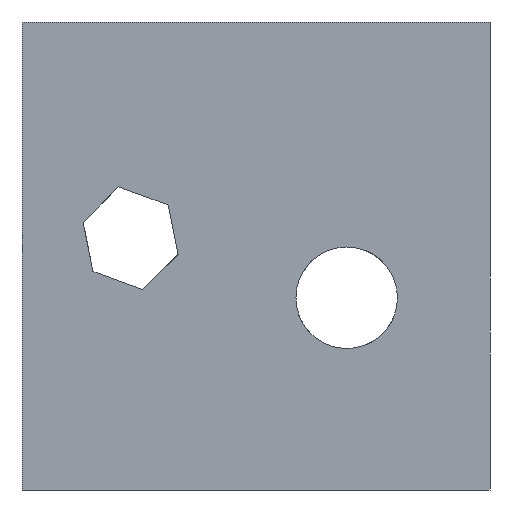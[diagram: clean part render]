
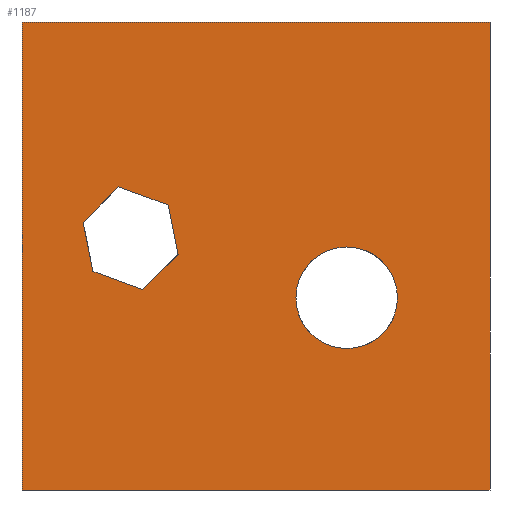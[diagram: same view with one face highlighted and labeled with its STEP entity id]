
A CAD part, front view. The second image highlights one B-rep face of the part: STEP entity #1187.
In plain terms, the highlighted planar face has unit normal (0, -1, 0).
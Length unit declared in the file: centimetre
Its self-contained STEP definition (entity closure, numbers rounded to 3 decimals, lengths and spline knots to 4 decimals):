
#24 = VERTEX_POINT ( 'NONE', #2193 ) ;
#42 = ORIENTED_EDGE ( 'NONE', *, *, #558, .T. ) ;
#53 = EDGE_CURVE ( 'NONE', #1128, #756, #1924, .T. ) ;
#56 = LINE ( 'NONE', #942, #843 ) ;
#69 = PLANE ( 'NONE',  #768 ) ;
#75 = DIRECTION ( 'NONE',  ( 0., 0., -1. ) ) ;
#81 = CARTESIAN_POINT ( 'NONE',  ( 0., 0., 1000. ) ) ;
#92 = DIRECTION ( 'NONE',  ( 0., 1., 0. ) ) ;
#97 = DIRECTION ( 'NONE',  ( 0., -1., 0. ) ) ;
#102 = CARTESIAN_POINT ( 'NONE',  ( 206.1162, 0., 647.8903 ) ) ;
#207 = DIRECTION ( 'NONE',  ( 1., 0., 0. ) ) ;
#220 = CARTESIAN_POINT ( 'NONE',  ( 0., 0., 1000. ) ) ;
#289 = VECTOR ( 'NONE', #1864, 100. ) ;
#322 = VECTOR ( 'NONE', #708, 100. ) ;
#348 = CARTESIAN_POINT ( 'NONE',  ( 1000., 0., 1000. ) ) ;
#379 = CARTESIAN_POINT ( 'NONE',  ( 0., 0., 0. ) ) ;
#397 = ORIENTED_EDGE ( 'NONE', *, *, #53, .T. ) ;
#413 = VERTEX_POINT ( 'NONE', #220 ) ;
#422 = ORIENTED_EDGE ( 'NONE', *, *, #543, .F. ) ;
#423 = EDGE_CURVE ( 'NONE', #2165, #1108, #1782, .T. ) ;
#439 = DIRECTION ( 'NONE',  ( -0.197, 0., 0.98 ) ) ;
#449 = VERTEX_POINT ( 'NONE', #2200 ) ;
#458 = CARTESIAN_POINT ( 'NONE',  ( 333.6033, 0., 503.8353 ) ) ;
#464 = DIRECTION ( 'NONE',  ( 1., 0., 0. ) ) ;
#495 = CARTESIAN_POINT ( 'NONE',  ( 130.4901, 0., 572.2641 ) ) ;
#505 = VERTEX_POINT ( 'NONE', #1682 ) ;
#543 = EDGE_CURVE ( 'NONE', #413, #1690, #1168, .T. ) ;
#552 = VERTEX_POINT ( 'NONE', #793 ) ;
#558 = EDGE_CURVE ( 'NONE', #413, #2165, #1495, .T. ) ;
#567 = AXIS2_PLACEMENT_3D ( 'NONE', #582, #1631, #75 ) ;
#582 = CARTESIAN_POINT ( 'NONE',  ( 693.7818, 0., 410.8388 ) ) ;
#651 = DIRECTION ( 'NONE',  ( -0.707, 0., -0.707 ) ) ;
#679 = LINE ( 'NONE', #495, #2079 ) ;
#686 = EDGE_CURVE ( 'NONE', #825, #1128, #679, .T. ) ;
#708 = DIRECTION ( 'NONE',  ( 0.939, 0., -0.344 ) ) ;
#735 = DIRECTION ( 'NONE',  ( 0., 0., -1. ) ) ;
#748 = ORIENTED_EDGE ( 'NONE', *, *, #1713, .T. ) ;
#756 = VERTEX_POINT ( 'NONE', #1130 ) ;
#758 = CARTESIAN_POINT ( 'NONE',  ( 130.4901, 0., 572.2641 ) ) ;
#768 = AXIS2_PLACEMENT_3D ( 'NONE', #2000, #92, #804 ) ;
#770 = EDGE_CURVE ( 'NONE', #756, #1134, #56, .T. ) ;
#793 = CARTESIAN_POINT ( 'NONE',  ( 693.7818, 0., 302.3378 ) ) ;
#800 = ORIENTED_EDGE ( 'NONE', *, *, #423, .T. ) ;
#804 = DIRECTION ( 'NONE',  ( 0., 0., 1. ) ) ;
#811 = CARTESIAN_POINT ( 'NONE',  ( 1000., 0., 1000. ) ) ;
#820 = DIRECTION ( 'NONE',  ( -0.939, 0., 0.344 ) ) ;
#825 = VERTEX_POINT ( 'NONE', #758 ) ;
#843 = VECTOR ( 'NONE', #1788, 100. ) ;
#856 = CARTESIAN_POINT ( 'NONE',  ( 206.1162, 0., 647.8903 ) ) ;
#899 = EDGE_CURVE ( 'NONE', #1134, #449, #1679, .T. ) ;
#921 = EDGE_LOOP ( 'NONE', ( #800, #1354, #422, #42 ) ) ;
#936 = AXIS2_PLACEMENT_3D ( 'NONE', #1951, #97, #735 ) ;
#942 = CARTESIAN_POINT ( 'NONE',  ( 312.4556, 0., 608.8932 ) ) ;
#945 = FACE_BOUND ( 'NONE', #1647, .T. ) ;
#988 = ORIENTED_EDGE ( 'NONE', *, *, #770, .T. ) ;
#1099 = ORIENTED_EDGE ( 'NONE', *, *, #2061, .F. ) ;
#1108 = VERTEX_POINT ( 'NONE', #1990 ) ;
#1128 = VERTEX_POINT ( 'NONE', #102 ) ;
#1130 = CARTESIAN_POINT ( 'NONE',  ( 312.4556, 0., 608.8932 ) ) ;
#1134 = VERTEX_POINT ( 'NONE', #1284 ) ;
#1135 = FACE_BOUND ( 'NONE', #2234, .T. ) ;
#1145 = VECTOR ( 'NONE', #207, 100. ) ;
#1168 = LINE ( 'NONE', #81, #2268 ) ;
#1171 = EDGE_CURVE ( 'NONE', #24, #825, #1668, .T. ) ;
#1187 = ADVANCED_FACE ( 'NONE', ( #945, #1135, #1648 ), #69, .F. ) ;
#1220 = VECTOR ( 'NONE', #2145, 100. ) ;
#1232 = ORIENTED_EDGE ( 'NONE', *, *, #1171, .T. ) ;
#1284 = CARTESIAN_POINT ( 'NONE',  ( 333.6033, 0., 503.8353 ) ) ;
#1296 = CARTESIAN_POINT ( 'NONE',  ( 0., 0., 1000. ) ) ;
#1332 = CARTESIAN_POINT ( 'NONE',  ( 151.6379, 0., 467.2063 ) ) ;
#1354 = ORIENTED_EDGE ( 'NONE', *, *, #2122, .F. ) ;
#1441 = LINE ( 'NONE', #348, #1220 ) ;
#1495 = LINE ( 'NONE', #1296, #289 ) ;
#1533 = ORIENTED_EDGE ( 'NONE', *, *, #899, .T. ) ;
#1584 = EDGE_CURVE ( 'NONE', #552, #505, #2254, .T. ) ;
#1631 = DIRECTION ( 'NONE',  ( 0., -1., 0. ) ) ;
#1647 = EDGE_LOOP ( 'NONE', ( #1766, #1099 ) ) ;
#1648 = FACE_OUTER_BOUND ( 'NONE', #921, .T. ) ;
#1668 = LINE ( 'NONE', #1332, #2237 ) ;
#1679 = LINE ( 'NONE', #458, #1691 ) ;
#1682 = CARTESIAN_POINT ( 'NONE',  ( 693.7818, 0., 519.3398 ) ) ;
#1690 = VERTEX_POINT ( 'NONE', #811 ) ;
#1691 = VECTOR ( 'NONE', #651, 100. ) ;
#1713 = EDGE_CURVE ( 'NONE', #449, #24, #2043, .T. ) ;
#1729 = CARTESIAN_POINT ( 'NONE',  ( 257.9772, 0., 428.2092 ) ) ;
#1766 = ORIENTED_EDGE ( 'NONE', *, *, #1584, .F. ) ;
#1769 = CARTESIAN_POINT ( 'NONE',  ( 0., 0., 0. ) ) ;
#1782 = LINE ( 'NONE', #379, #1145 ) ;
#1788 = DIRECTION ( 'NONE',  ( 0.197, 0., -0.98 ) ) ;
#1864 = DIRECTION ( 'NONE',  ( 0., 0., -1. ) ) ;
#1884 = DIRECTION ( 'NONE',  ( 0.707, 0., 0.707 ) ) ;
#1924 = LINE ( 'NONE', #856, #322 ) ;
#1931 = ORIENTED_EDGE ( 'NONE', *, *, #686, .T. ) ;
#1951 = CARTESIAN_POINT ( 'NONE',  ( 693.7818, 0., 410.8388 ) ) ;
#1990 = CARTESIAN_POINT ( 'NONE',  ( 1000., 0., 0. ) ) ;
#2000 = CARTESIAN_POINT ( 'NONE',  ( 0., 0., 1000. ) ) ;
#2043 = LINE ( 'NONE', #1729, #2150 ) ;
#2061 = EDGE_CURVE ( 'NONE', #505, #552, #2223, .T. ) ;
#2079 = VECTOR ( 'NONE', #1884, 100. ) ;
#2122 = EDGE_CURVE ( 'NONE', #1690, #1108, #1441, .T. ) ;
#2145 = DIRECTION ( 'NONE',  ( 0., 0., -1. ) ) ;
#2150 = VECTOR ( 'NONE', #820, 100. ) ;
#2165 = VERTEX_POINT ( 'NONE', #1769 ) ;
#2193 = CARTESIAN_POINT ( 'NONE',  ( 151.6379, 0., 467.2063 ) ) ;
#2200 = CARTESIAN_POINT ( 'NONE',  ( 257.9772, 0., 428.2092 ) ) ;
#2223 = CIRCLE ( 'NONE', #936, 108.501 ) ;
#2234 = EDGE_LOOP ( 'NONE', ( #397, #988, #1533, #748, #1232, #1931 ) ) ;
#2237 = VECTOR ( 'NONE', #439, 100. ) ;
#2254 = CIRCLE ( 'NONE', #567, 108.501 ) ;
#2268 = VECTOR ( 'NONE', #464, 100. ) ;
